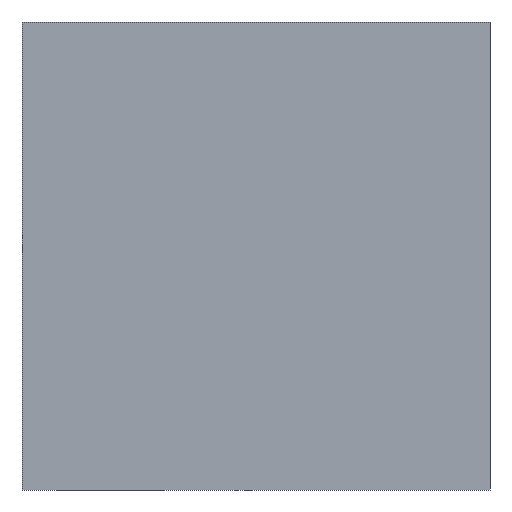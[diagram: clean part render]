
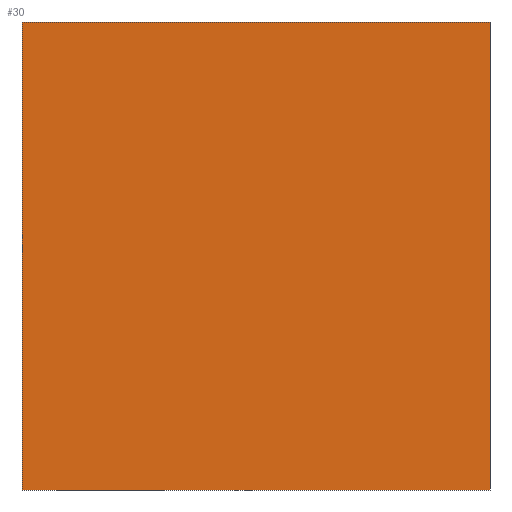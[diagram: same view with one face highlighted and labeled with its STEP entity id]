
A CAD part, front view. The second image highlights one B-rep face of the part: STEP entity #30.
In plain terms, the highlighted planar face has unit normal (0, -1, 0).
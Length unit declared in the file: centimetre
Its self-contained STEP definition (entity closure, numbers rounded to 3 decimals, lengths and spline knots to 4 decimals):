
#13 = DIRECTION ( 'NONE',  ( 0., 0., -1. ) ) ;
#24 = CARTESIAN_POINT ( 'NONE',  ( 0., 0., 0. ) ) ;
#30 = ADVANCED_FACE ( 'NONE', ( #47 ), #98, .F. ) ;
#47 = FACE_OUTER_BOUND ( 'NONE', #481, .T. ) ;
#63 = EDGE_CURVE ( 'NONE', #482, #242, #337, .T. ) ;
#64 = CARTESIAN_POINT ( 'NONE',  ( 0., 0., 1000. ) ) ;
#82 = CARTESIAN_POINT ( 'NONE',  ( 0., 0., 1000. ) ) ;
#89 = CARTESIAN_POINT ( 'NONE',  ( 1000., 0., 1000. ) ) ;
#98 = PLANE ( 'NONE',  #528 ) ;
#100 = CARTESIAN_POINT ( 'NONE',  ( 0., 0., 1000. ) ) ;
#102 = ORIENTED_EDGE ( 'NONE', *, *, #118, .F. ) ;
#118 = EDGE_CURVE ( 'NONE', #237, #482, #258, .T. ) ;
#152 = CARTESIAN_POINT ( 'NONE',  ( 0., 0., 1000. ) ) ;
#155 = VECTOR ( 'NONE', #13, 100. ) ;
#170 = EDGE_CURVE ( 'NONE', #342, #242, #263, .T. ) ;
#188 = CARTESIAN_POINT ( 'NONE',  ( 1000., 0., 1000. ) ) ;
#197 = DIRECTION ( 'NONE',  ( 0., 0., -1. ) ) ;
#215 = ORIENTED_EDGE ( 'NONE', *, *, #170, .T. ) ;
#217 = DIRECTION ( 'NONE',  ( 1., 0., 0. ) ) ;
#237 = VERTEX_POINT ( 'NONE', #82 ) ;
#242 = VERTEX_POINT ( 'NONE', #414 ) ;
#253 = VECTOR ( 'NONE', #217, 100. ) ;
#258 = LINE ( 'NONE', #64, #426 ) ;
#263 = LINE ( 'NONE', #449, #253 ) ;
#337 = LINE ( 'NONE', #89, #518 ) ;
#342 = VERTEX_POINT ( 'NONE', #24 ) ;
#361 = ORIENTED_EDGE ( 'NONE', *, *, #608, .T. ) ;
#414 = CARTESIAN_POINT ( 'NONE',  ( 1000., 0., 0. ) ) ;
#424 = ORIENTED_EDGE ( 'NONE', *, *, #63, .F. ) ;
#426 = VECTOR ( 'NONE', #556, 100. ) ;
#432 = DIRECTION ( 'NONE',  ( 0., 1., 0. ) ) ;
#434 = DIRECTION ( 'NONE',  ( 0., 0., 1. ) ) ;
#449 = CARTESIAN_POINT ( 'NONE',  ( 0., 0., 0. ) ) ;
#450 = LINE ( 'NONE', #100, #155 ) ;
#481 = EDGE_LOOP ( 'NONE', ( #215, #424, #102, #361 ) ) ;
#482 = VERTEX_POINT ( 'NONE', #188 ) ;
#518 = VECTOR ( 'NONE', #197, 100. ) ;
#528 = AXIS2_PLACEMENT_3D ( 'NONE', #152, #432, #434 ) ;
#556 = DIRECTION ( 'NONE',  ( 1., 0., 0. ) ) ;
#608 = EDGE_CURVE ( 'NONE', #237, #342, #450, .T. ) ;
